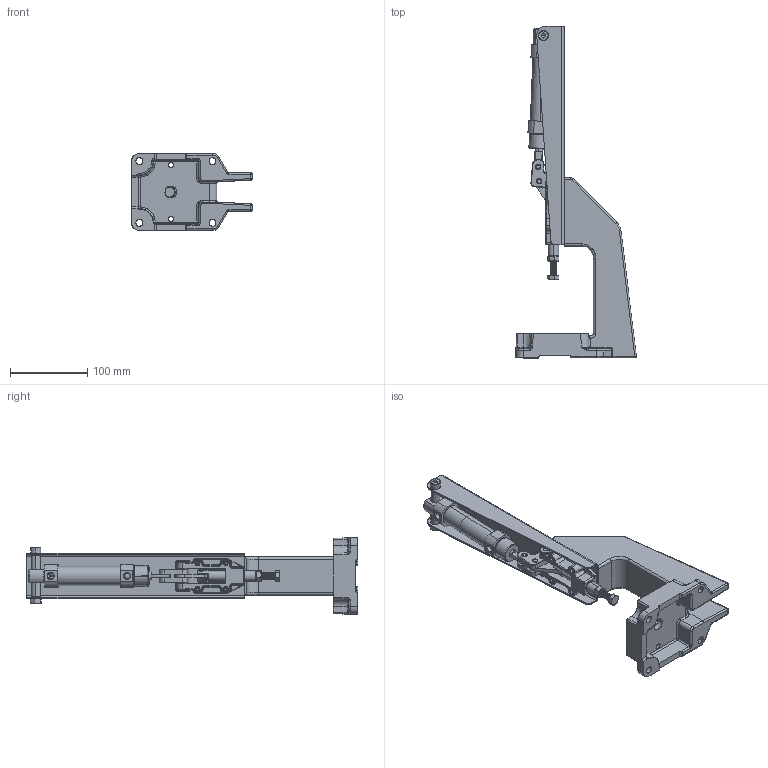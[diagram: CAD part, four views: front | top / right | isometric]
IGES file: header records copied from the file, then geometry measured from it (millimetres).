
Start section: SolidWorks IGES file using analytic representation for surfaces
Global section: file name: D:\GH Files\GH-SW-FILES\GH-A\30600A\30600PRA\GH-30600PRA.IGS; native system: SolidWorks 2006 by SolidWorks Corporation; preprocessor: SolidWorks 2006 by SolidWorks Corporation; author: Administrator; date: 060829.142349; units: millimetre
Bounding box: 156.74 x 430.75 x 100 mm (x, y, z)
Surface area: 239831.6 mm2 (no closed solid volume)
Topology: 0 solids, 0 shells, 2053 faces, 16435 edges, 16403 vertices
Faces by surface type: revolution 1074, bspline 979
